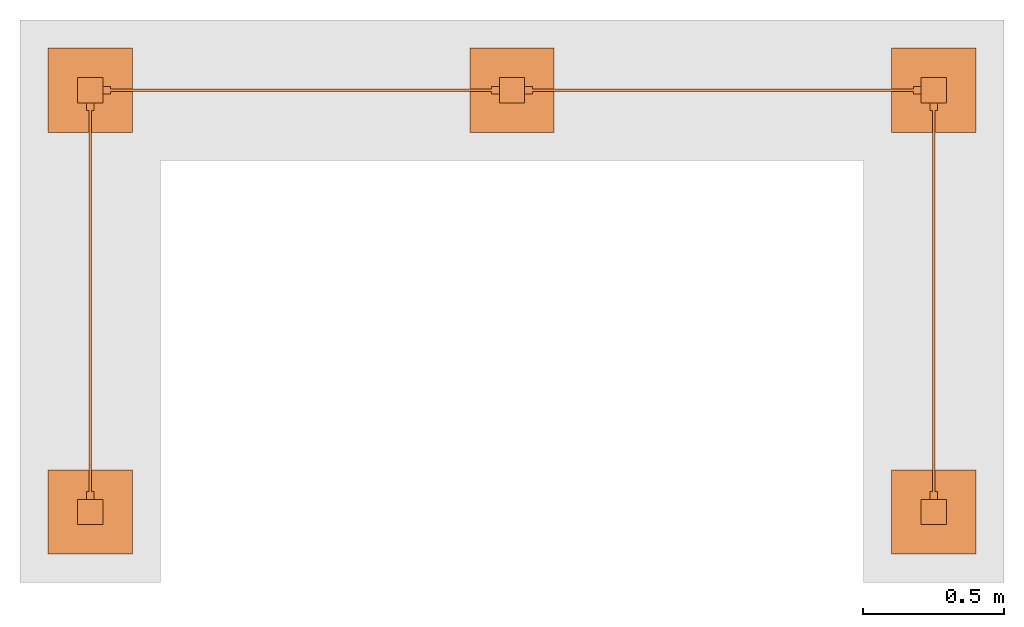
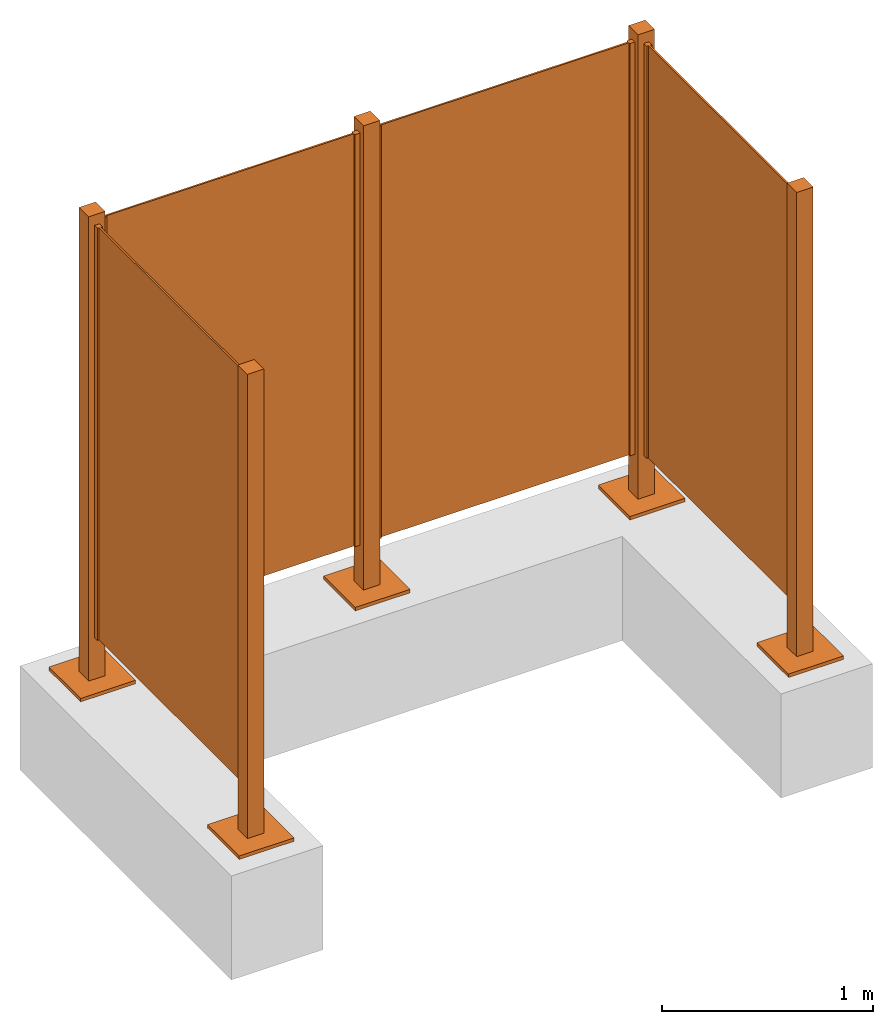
# One storey, part 2 of 2: 1 proxy.
"""IFC4 building model written with IfcOpenShell, lengths in metres."""

from ifc_helpers import new_model, entity, si_unit, converted_unit, direction, frame, frame_2d, origin, origin_2d_with_axis, place, context, subcontext, project, spatial, rectangle, extrude, source, transform, mapped, material, constituent, constituent_set, type_object, type_shapes, element, save


model = new_model("IFC4")

# Units and contexts
model_context = context("Model", 3, precision=1e-05, world=origin(), true_north=direction((6.123031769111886e-17, 1.0)))
body_context = subcontext(model_context, "Body", "Model", "MODEL_VIEW")
ifc_project = project(units=[si_unit("LENGTHUNIT", "METRE"), converted_unit("PLANEANGLEUNIT", "DEGREE", entity("IfcPlaneAngleMeasure", 0.017453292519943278), si_unit("PLANEANGLEUNIT", "RADIAN"), dimensions=[0, 0, 0, 0, 0, 0, 0]), si_unit("AREAUNIT", "SQUARE_METRE")], contexts=[model_context])

# Site, building, storey
site_placement = place(None, origin())
site = spatial("IfcSite", under=ifc_project, at=site_placement, Name="Default", CompositionType="ELEMENT")
building_placement = place(site_placement, origin())
building = spatial("IfcBuilding", under=site, at=building_placement, CompositionType="ELEMENT")
storey_placement = place(building_placement, origin())
storey = spatial("IfcBuildingStorey", under=building, at=storey_placement, Name="DB_Bezugshoehe_max_Bahnsteigkante", CompositionType="ELEMENT", Elevation=0.0)

# Proxy
ifc_material_1 = material(Name="DB_Aluminium_RAL7035", Category="DB_Aluminium")
ifc_constituent_1 = constituent(ifc_material_1, Name="DB_Aluminium_RAL7035", Category="DB_Aluminium")
ifc_material_2 = material(Name="DB_ESG/VSG_klar", Category="DB_Glas")
ifc_constituent_2 = constituent(ifc_material_2, Name="DB_ESG/VSG_klar", Category="DB_Glas")
ifc_material_3 = material(Name="DB_Stahl_verzinkt_RAL9006", Category="DB_Stahl")
ifc_constituent_3 = constituent(ifc_material_3, Name="DB_Stahl_verzinkt_RAL9006", Category="DB_Stahl")
ifc_material_4 = material(Name="DB_Aluminium_RAL9007", Category="DB_Aluminium")
ifc_constituent_4 = constituent(ifc_material_4, Name="DB_Aluminium_RAL9007", Category="DB_Aluminium")
ifc_constituent_set_1 = constituent_set(constituents=[ifc_constituent_1, ifc_constituent_2, ifc_constituent_3, ifc_constituent_4])
ifc_constituent_5 = constituent(ifc_material_1, Name="DB_FAM_Volumen", Category="DB_Aluminium")
ifc_constituent_6 = constituent(ifc_material_2, Name="DB_FAM_Volumen", Category="DB_Glas")
ifc_constituent_7 = constituent(ifc_material_3, Name="DB_FAM_Volumen", Category="DB_Stahl")
ifc_constituent_8 = constituent(ifc_material_4, Name="DB_FAM_Volumen", Category="DB_Aluminium")
ifc_constituent_set_2 = constituent_set(constituents=[ifc_constituent_5, ifc_constituent_6, ifc_constituent_7, ifc_constituent_8])
building_element_proxy_type = type_object("IfcBuildingElementProxyType", Name="DB_Windschutz 2-feldrig U-Form:DB_Windschutz 2-feldrig U-Form", PredefinedType="NOTDEFINED", material=ifc_constituent_set_2)
shared_shape = source(origin(), body_context, "Body", "SweptSolid", [
    extrude(rectangle(XDim=0.027499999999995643, YDim=0.02760000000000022, at=frame_2d((-4.336808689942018e-18, 2.706168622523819e-16), x_axis=(1.0, 0.0))), frame((4.500000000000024, 0.058749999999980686, 0.05999999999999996), z_axis=(0.0, 0.0, 1.0), x_axis=(0.0, 1.0, 0.0)), (0.0, 0.0, 1.0), 2.3800000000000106),
    extrude(rectangle(XDim=0.027499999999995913, YDim=0.02759999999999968, at=frame_2d((-1.3530843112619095e-16, 2.706168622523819e-16), x_axis=(1.0, 0.0))), frame((4.500000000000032, 1.4412500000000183, 0.05999999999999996), z_axis=(0.0, 0.0, 1.0), x_axis=(0.0, 1.0, 0.0)), (0.0, 0.0, 1.0), 2.3800000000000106),
    extrude(rectangle(XDim=0.00999999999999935, YDim=1.3550000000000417, at=origin_2d_with_axis()), frame((4.500000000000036, 0.7499999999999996, 0.059999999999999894), z_axis=(0.0, 0.0, 1.0), x_axis=(-1.0, 0.0, 0.0)), (0.0, 0.0, 1.0), 2.38000000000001),
    extrude(rectangle(XDim=0.027499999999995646, YDim=0.02760000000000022, at=frame_2d((0.0, -1.3530843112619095e-16), x_axis=(1.0, 0.0))), frame((1.4999999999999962, 0.058749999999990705, 0.05999999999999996), z_axis=(0.0, 0.0, 1.0), x_axis=(0.0, 1.0, 0.0)), (0.0, 0.0, 1.0), 2.3800000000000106),
    extrude(rectangle(XDim=0.027499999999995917, YDim=0.02759999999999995, at=frame_2d((1.3530843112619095e-16, -2.706168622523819e-16), x_axis=(1.0, 0.0))), frame((1.5000000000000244, 1.4412500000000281, 0.05999999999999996), z_axis=(0.0, 0.0, 1.0), x_axis=(0.0, 1.0, 0.0)), (0.0, 0.0, 1.0), 2.3800000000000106),
    extrude(rectangle(XDim=0.009999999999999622, YDim=1.3550000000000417, at=origin_2d_with_axis()), frame((1.5000000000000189, 0.7500000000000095, 0.059999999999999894), z_axis=(0.0, 0.0, 1.0), x_axis=(-1.0, 0.0, 0.0)), (0.0, 0.0, 1.0), 2.38000000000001),
    extrude(rectangle(XDim=0.027499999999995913, YDim=0.02760000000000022, at=frame_2d((0.0, -1.3530843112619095e-16), x_axis=(1.0, 0.0))), frame((4.441250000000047, 1.5000000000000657, 0.05999999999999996), z_axis=(0.0, 0.0, 1.0), x_axis=(-1.0, 0.0, 0.0)), (0.0, 0.0, 1.0), 2.3800000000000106),
    extrude(rectangle(XDim=0.027499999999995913, YDim=0.02759999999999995, at=origin_2d_with_axis()), frame((3.0587500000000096, 1.500000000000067, 0.05999999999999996), z_axis=(0.0, 0.0, 1.0), x_axis=(-1.0, 0.0, 0.0)), (0.0, 0.0, 1.0), 2.3800000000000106),
    extrude(rectangle(XDim=0.009999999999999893, YDim=1.3550000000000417, at=frame_2d((1.3530843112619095e-16, -5.551115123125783e-16), x_axis=(1.0, 0.0))), frame((3.750000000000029, 1.5000000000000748, 0.059999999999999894), z_axis=(0.0, 0.0, 1.0), x_axis=(0.0, -1.0, 0.0)), (0.0, 0.0, 1.0), 2.38000000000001),
    extrude(rectangle(XDim=0.027499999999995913, YDim=0.02760000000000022, at=frame_2d((0.0, -1.3530843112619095e-16), x_axis=(1.0, 0.0))), frame((2.9412500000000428, 1.5000000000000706, 0.05999999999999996), z_axis=(0.0, 0.0, 1.0), x_axis=(-1.0, 0.0, 0.0)), (0.0, 0.0, 1.0), 2.3800000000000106),
    extrude(rectangle(XDim=0.027499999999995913, YDim=0.02759999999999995, at=frame_2d((1.3530843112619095e-16, 0.0), x_axis=(1.0, 0.0))), frame((1.5587500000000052, 1.500000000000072, 0.05999999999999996), z_axis=(0.0, 0.0, 1.0), x_axis=(-1.0, 0.0, 0.0)), (0.0, 0.0, 1.0), 2.3800000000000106),
    extrude(rectangle(XDim=0.009999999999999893, YDim=1.3550000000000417, at=frame_2d((-1.3530843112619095e-16, 0.0), x_axis=(1.0, 0.0))), frame((2.250000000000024, 1.5000000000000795, 0.059999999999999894), z_axis=(0.0, 0.0, 1.0), x_axis=(0.0, -1.0, 0.0)), (0.0, 0.0, 1.0), 2.38000000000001),
    extrude(rectangle(XDim=0.2999999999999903, YDim=0.3000000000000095, at=frame_2d((0.0, 1.3877787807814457e-16), x_axis=(1.0, 0.0))), frame((1.5000000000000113, 1.4999999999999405, -0.19999999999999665), z_axis=(0.0, 0.0, 1.0), x_axis=(-1.0, 0.0, 0.0)), (0.0, 0.0, 1.0), 0.019999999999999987),
    extrude(rectangle(XDim=0.29999999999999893, YDim=0.3000000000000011, at=origin_2d_with_axis()), frame((4.500000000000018, 1.4999999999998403, -0.19999999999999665), z_axis=(0.0, 0.0, 1.0), x_axis=(-1.0, 0.0, 0.0)), (0.0, 0.0, 1.0), 0.019999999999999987),
    extrude(rectangle(XDim=0.3000000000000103, YDim=0.30000000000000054, at=frame_2d((-2.7755575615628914e-16, 0.0), x_axis=(1.0, 0.0))), frame((3.0, 1.4999999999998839, -0.19999999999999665), z_axis=(0.0, 0.0, 1.0), x_axis=(-1.0, 0.0, 0.0)), (0.0, 0.0, 1.0), 0.019999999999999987),
    extrude(rectangle(XDim=0.30000000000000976, YDim=0.29999999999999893, at=origin_2d_with_axis()), frame((1.4999999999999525, 0.0, -0.19999999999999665), z_axis=(0.0, 0.0, 1.0), x_axis=(-1.0, 0.0, 0.0)), (0.0, 0.0, 1.0), 0.019999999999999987),
    extrude(rectangle(XDim=0.30000000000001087, YDim=0.29999999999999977, at=origin_2d_with_axis()), frame((4.499999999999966, 0.0, -0.19999999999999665), z_axis=(0.0, 0.0, 1.0), x_axis=(-1.0, 0.0, 0.0)), (0.0, 0.0, 1.0), 0.019999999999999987),
    extrude(rectangle(XDim=0.09000000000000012, YDim=0.09000000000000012, at=origin_2d_with_axis()), frame((4.500000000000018, 1.4999999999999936, 0.0), z_axis=(0.0, 0.0, 1.0), x_axis=(0.0, 1.0, 0.0)), (0.0, 0.0, 1.0), 2.5000000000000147),
    extrude(rectangle(XDim=0.08999999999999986, YDim=0.09000000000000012, at=frame_2d((1.3530843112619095e-16, 0.0), x_axis=(1.0, 0.0))), frame((3.0, 1.4999999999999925, 0.0), z_axis=(0.0, 0.0, 1.0), x_axis=(0.0, 1.0, 0.0)), (0.0, 0.0, 1.0), 2.5000000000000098),
    extrude(rectangle(XDim=0.09000000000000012, YDim=0.09000000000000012, at=origin_2d_with_axis()), frame((1.5000000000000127, 1.500000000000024, 0.0), z_axis=(0.0, 0.0, 1.0), x_axis=(0.0, 1.0, 0.0)), (0.0, 0.0, 1.0), 2.500000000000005),
    extrude(rectangle(XDim=0.08999999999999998, YDim=0.08999999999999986, at=frame_2d((0.0, -1.3530843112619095e-16), x_axis=(1.0, 0.0))), frame((1.500000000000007, 0.0, 0.0), z_axis=(0.0, 0.0, 1.0), x_axis=(0.0, 1.0, 0.0)), (0.0, 0.0, 1.0), 2.5),
    extrude(rectangle(XDim=0.08999999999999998, YDim=0.08999999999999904, at=origin_2d_with_axis()), frame((4.500000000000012, 0.0, 0.0), z_axis=(0.0, 0.0, 1.0), x_axis=(0.0, 1.0, 0.0)), (0.0, 0.0, 1.0), 2.5000000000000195),
    extrude(rectangle(XDim=0.09000000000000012, YDim=0.09000000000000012, at=origin_2d_with_axis()), frame((4.500000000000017, 1.500000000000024, -0.18000000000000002), z_axis=(0.0, 0.0, 1.0), x_axis=(0.0, 1.0, 0.0)), (0.0, 0.0, 1.0), 0.1799999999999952),
    extrude(rectangle(XDim=0.09000000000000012, YDim=0.09000000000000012, at=origin_2d_with_axis()), frame((3.0, 1.500000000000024, -0.18000000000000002), z_axis=(0.0, 0.0, 1.0), x_axis=(0.0, 1.0, 0.0)), (0.0, 0.0, 1.0), 0.1800000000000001),
    extrude(rectangle(XDim=0.09000000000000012, YDim=0.0899999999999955, at=frame_2d((0.0, -1.3530843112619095e-16), x_axis=(1.0, 0.0))), frame((1.5000000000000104, 1.4999999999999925, -0.18000000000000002), z_axis=(0.0, 0.0, 1.0), x_axis=(0.0, 1.0, 0.0)), (0.0, 0.0, 1.0), 0.1799999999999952),
    extrude(rectangle(XDim=0.08999999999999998, YDim=0.08999999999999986, at=frame_2d((0.0, -1.3530843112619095e-16), x_axis=(1.0, 0.0))), frame((1.500000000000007, 0.0, -0.18000000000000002), z_axis=(0.0, 0.0, 1.0), x_axis=(0.0, 1.0, 0.0)), (0.0, 0.0, 1.0), 0.1799999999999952),
    extrude(rectangle(XDim=0.08999999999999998, YDim=0.08999999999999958, at=frame_2d((0.0, -2.706168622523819e-16), x_axis=(1.0, 0.0))), frame((4.500000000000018, 0.0, -0.18000000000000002), z_axis=(0.0, 0.0, 1.0), x_axis=(0.0, 1.0, 0.0)), (0.0, 0.0, 1.0), 0.1799999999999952),
])
type_shapes(building_element_proxy_type, [shared_shape])
proxy_placement = place(storey_placement, frame((-1.5000000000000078, 0.0, 0.8000000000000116)))
element("IfcBuildingElementProxy", 1, at=proxy_placement, inside=storey, type_object=building_element_proxy_type, material=ifc_constituent_set_1, Name="DB_Windschutz 2-feldrig U-Form:DB_Windschutz 2-feldrig U-Form", ObjectType="DB_Windschutz 2-feldrig U-Form:DB_Windschutz 2-feldrig U-Form", PredefinedType="NOTDEFINED", context=body_context, shape_type="MappedRepresentation", body=[
    mapped(shared_shape, transform((0.0, 0.0, 0.0), scale=1.0)),
])

save(model, "model.ifc")
